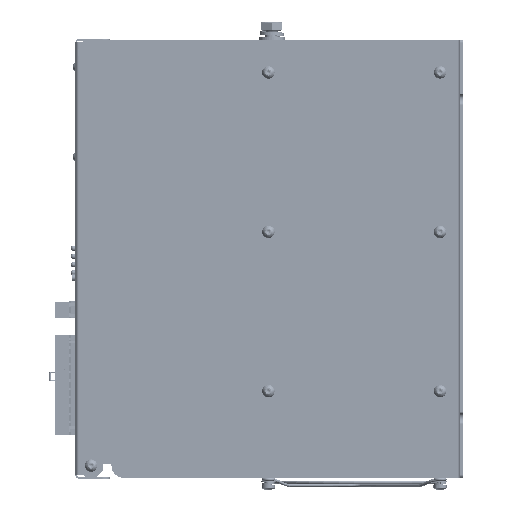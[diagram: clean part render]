
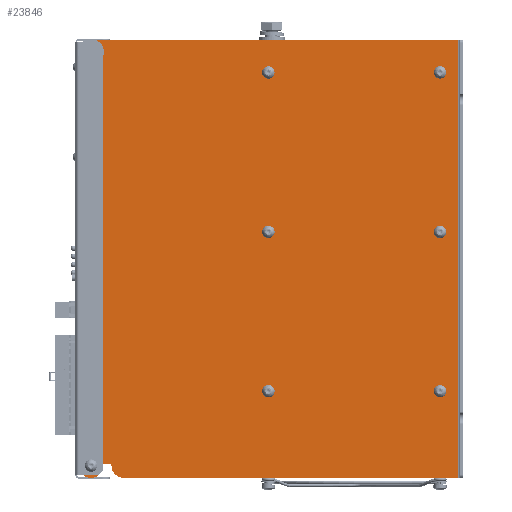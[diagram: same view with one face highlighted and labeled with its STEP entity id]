
A CAD part, left-side view. The second image highlights one B-rep face of the part: STEP entity #23846.
In plain terms, the highlighted planar face has unit normal (-1, 0, 0) as drawn and (0, -1, 0) by its records, which use the part's own axes.
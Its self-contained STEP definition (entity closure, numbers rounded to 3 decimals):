
#23846=ADVANCED_FACE('',(#189702,#189704,#189706,#189708,#189710,#189712,#189714,
#189716,#189718),#189720,.F.);
#189702=FACE_BOUND('',#189703,.T.);
#189703=EDGE_LOOP('',(#312044,#312045,#312046,#312047,#312048,#312049,#312050,#312051,
#312052,#312053));
#189704=FACE_BOUND('',#189705,.T.);
#189705=EDGE_LOOP('',(#312054));
#189706=FACE_BOUND('',#189707,.T.);
#189707=EDGE_LOOP('',(#312055));
#189708=FACE_BOUND('',#189709,.T.);
#189709=EDGE_LOOP('',(#312056));
#189710=FACE_BOUND('',#189711,.T.);
#189711=EDGE_LOOP('',(#312057));
#189712=FACE_BOUND('',#189713,.T.);
#189713=EDGE_LOOP('',(#312058));
#189714=FACE_BOUND('',#189715,.T.);
#189715=EDGE_LOOP('',(#312059));
#189716=FACE_BOUND('',#189717,.T.);
#189717=EDGE_LOOP('',(#312060));
#189718=FACE_BOUND('',#189719,.T.);
#189719=EDGE_LOOP('',(#312061));
#189720=PLANE('',#189721);
#189721=AXIS2_PLACEMENT_3D('',#189722,#189723,#189724);
#189722=CARTESIAN_POINT('',(0.,0.,0.));
#189723=DIRECTION('',(0.,1.,0.));
#189724=DIRECTION('',(-1.,0.,0.));
#312044=ORIENTED_EDGE('',*,*,#400041,.T.);
#312045=ORIENTED_EDGE('',*,*,#400048,.F.);
#312046=ORIENTED_EDGE('',*,*,#400049,.F.);
#312047=ORIENTED_EDGE('',*,*,#400050,.F.);
#312048=ORIENTED_EDGE('',*,*,#400051,.F.);
#312049=ORIENTED_EDGE('',*,*,#400052,.T.);
#312050=ORIENTED_EDGE('',*,*,#400053,.T.);
#312051=ORIENTED_EDGE('',*,*,#400054,.T.);
#312052=ORIENTED_EDGE('',*,*,#400055,.F.);
#312053=ORIENTED_EDGE('',*,*,#400056,.F.);
#312054=ORIENTED_EDGE('',*,*,#400057,.T.);
#312055=ORIENTED_EDGE('',*,*,#400058,.T.);
#312056=ORIENTED_EDGE('',*,*,#400059,.T.);
#312057=ORIENTED_EDGE('',*,*,#400060,.T.);
#312058=ORIENTED_EDGE('',*,*,#400061,.T.);
#312059=ORIENTED_EDGE('',*,*,#400062,.T.);
#312060=ORIENTED_EDGE('',*,*,#400063,.T.);
#312061=ORIENTED_EDGE('',*,*,#400064,.T.);
#400041=EDGE_CURVE('',#453682,#453680,#453683,.T.);
#400048=EDGE_CURVE('',#453692,#453680,#453693,.T.);
#400049=EDGE_CURVE('',#453694,#453692,#453695,.F.);
#400050=EDGE_CURVE('',#453696,#453694,#453697,.T.);
#400051=EDGE_CURVE('',#453698,#453696,#453699,.F.);
#400052=EDGE_CURVE('',#453698,#453700,#453701,.T.);
#400053=EDGE_CURVE('',#453700,#453702,#453703,.T.);
#400054=EDGE_CURVE('',#453702,#453704,#453705,.T.);
#400055=EDGE_CURVE('',#453706,#453704,#453707,.F.);
#400056=EDGE_CURVE('',#453682,#453706,#453708,.T.);
#400057=EDGE_CURVE('',#453709,#453709,#453710,.T.);
#400058=EDGE_CURVE('',#453711,#453711,#453712,.T.);
#400059=EDGE_CURVE('',#453713,#453713,#453714,.T.);
#400060=EDGE_CURVE('',#453715,#453715,#453716,.T.);
#400061=EDGE_CURVE('',#453717,#453717,#453718,.T.);
#400062=EDGE_CURVE('',#453719,#453719,#453720,.T.);
#400063=EDGE_CURVE('',#453721,#453721,#453722,.T.);
#400064=EDGE_CURVE('',#453723,#453723,#453724,.T.);
#453680=VERTEX_POINT('',#565097);
#453682=VERTEX_POINT('',#565102);
#453683=LINE('',#565103,#565104);
#453692=VERTEX_POINT('',#565129);
#453693=LINE('',#565130,#565131);
#453694=VERTEX_POINT('',#565133);
#453695=CIRCLE('',#565134,7.5);
#453696=VERTEX_POINT('',#565138);
#453697=LINE('',#565139,#565140);
#453698=VERTEX_POINT('',#565142);
#453699=CIRCLE('',#565143,7.5);
#453700=VERTEX_POINT('',#565147);
#453701=LINE('',#565148,#565149);
#453702=VERTEX_POINT('',#565151);
#453703=LINE('',#565152,#565153);
#453704=VERTEX_POINT('',#565155);
#453705=LINE('',#565156,#565157);
#453706=VERTEX_POINT('',#565159);
#453707=CIRCLE('',#565160,7.5);
#453708=LINE('',#565164,#565165);
#453709=VERTEX_POINT('',#565167);
#453710=CIRCLE('',#565168,2.65);
#453711=VERTEX_POINT('',#565172);
#453712=CIRCLE('',#565173,2.1);
#453713=VERTEX_POINT('',#565177);
#453714=CIRCLE('',#565178,2.1);
#453715=VERTEX_POINT('',#565182);
#453716=CIRCLE('',#565183,2.1);
#453717=VERTEX_POINT('',#565187);
#453718=CIRCLE('',#565188,2.1);
#453719=VERTEX_POINT('',#565192);
#453720=CIRCLE('',#565193,2.1);
#453721=VERTEX_POINT('',#565197);
#453722=CIRCLE('',#565198,2.1);
#453723=VERTEX_POINT('',#565202);
#453724=CIRCLE('',#565203,2.65);
#565097=CARTESIAN_POINT('',(134.,0.,-114.5));
#565102=CARTESIAN_POINT('',(-134.,0.,-114.5));
#565103=CARTESIAN_POINT('',(-134.,0.,-114.5));
#565104=VECTOR('',#565105,1.);
#565105=DIRECTION('',(1.,0.,0.));
#565129=CARTESIAN_POINT('',(134.,0.,110.));
#565130=CARTESIAN_POINT('',(134.,0.,110.));
#565131=VECTOR('',#565132,1.);
#565132=DIRECTION('',(0.,0.,-1.));
#565133=CARTESIAN_POINT('',(126.5,0.,117.5));
#565134=AXIS2_PLACEMENT_3D('',#565135,#565136,#565137);
#565135=CARTESIAN_POINT('',(126.5,0.,110.));
#565136=DIRECTION('',(0.,-1.,0.));
#565137=DIRECTION('',(1.,0.,0.));
#565138=CARTESIAN_POINT('',(-126.5,0.,117.5));
#565139=CARTESIAN_POINT('',(-126.5,0.,117.5));
#565140=VECTOR('',#565141,1.);
#565141=DIRECTION('',(1.,0.,0.));
#565142=CARTESIAN_POINT('',(-126.5,0.,102.5));
#565143=AXIS2_PLACEMENT_3D('',#565144,#565145,#565146);
#565144=CARTESIAN_POINT('',(-126.5,0.,110.));
#565145=DIRECTION('',(0.,-1.,0.));
#565146=DIRECTION('',(0.,0.,1.));
#565147=CARTESIAN_POINT('',(-125.5,0.,102.5));
#565148=CARTESIAN_POINT('',(-126.5,0.,102.5));
#565149=VECTOR('',#565150,1.);
#565150=DIRECTION('',(1.,0.,0.));
#565151=CARTESIAN_POINT('',(-125.5,0.,97.5));
#565152=CARTESIAN_POINT('',(-125.5,0.,102.5));
#565153=VECTOR('',#565154,1.);
#565154=DIRECTION('',(0.,0.,-1.));
#565155=CARTESIAN_POINT('',(-126.5,0.,97.5));
#565156=CARTESIAN_POINT('',(-125.5,0.,97.5));
#565157=VECTOR('',#565158,1.);
#565158=DIRECTION('',(-1.,0.,0.));
#565159=CARTESIAN_POINT('',(-134.,0.,90.));
#565160=AXIS2_PLACEMENT_3D('',#565161,#565162,#565163);
#565161=CARTESIAN_POINT('',(-126.5,0.,90.));
#565162=DIRECTION('',(0.,-1.,0.));
#565163=DIRECTION('',(0.,0.,1.));
#565164=CARTESIAN_POINT('',(-134.,0.,-114.5));
#565165=VECTOR('',#565166,1.);
#565166=DIRECTION('',(0.,0.,1.));
#565167=CARTESIAN_POINT('',(-129.15,0.,110.));
#565168=AXIS2_PLACEMENT_3D('',#565169,#565170,#565171);
#565169=CARTESIAN_POINT('',(-126.5,0.,110.));
#565170=DIRECTION('',(0.,1.,0.));
#565171=DIRECTION('',(-1.,0.,0.));
#565172=CARTESIAN_POINT('',(111.9,0.,-103.5));
#565173=AXIS2_PLACEMENT_3D('',#565174,#565175,#565176);
#565174=CARTESIAN_POINT('',(114.,0.,-103.5));
#565175=DIRECTION('',(0.,1.,0.));
#565176=DIRECTION('',(-1.,0.,0.));
#565177=CARTESIAN_POINT('',(-83.1,0.,-103.5));
#565178=AXIS2_PLACEMENT_3D('',#565179,#565180,#565181);
#565179=CARTESIAN_POINT('',(-81.,0.,-103.5));
#565180=DIRECTION('',(0.,1.,0.));
#565181=DIRECTION('',(-1.,0.,0.));
#565182=CARTESIAN_POINT('',(-83.1,0.,1.5));
#565183=AXIS2_PLACEMENT_3D('',#565184,#565185,#565186);
#565184=CARTESIAN_POINT('',(-81.,0.,1.5));
#565185=DIRECTION('',(0.,1.,0.));
#565186=DIRECTION('',(-1.,0.,0.));
#565187=CARTESIAN_POINT('',(111.9,0.,1.5));
#565188=AXIS2_PLACEMENT_3D('',#565189,#565190,#565191);
#565189=CARTESIAN_POINT('',(114.,0.,1.5));
#565190=DIRECTION('',(0.,1.,0.));
#565191=DIRECTION('',(-1.,0.,0.));
#565192=CARTESIAN_POINT('',(14.4,0.,1.5));
#565193=AXIS2_PLACEMENT_3D('',#565194,#565195,#565196);
#565194=CARTESIAN_POINT('',(16.5,0.,1.5));
#565195=DIRECTION('',(0.,1.,0.));
#565196=DIRECTION('',(-1.,0.,0.));
#565197=CARTESIAN_POINT('',(14.4,0.,-103.5));
#565198=AXIS2_PLACEMENT_3D('',#565199,#565200,#565201);
#565199=CARTESIAN_POINT('',(16.5,0.,-103.5));
#565200=DIRECTION('',(0.,1.,0.));
#565201=DIRECTION('',(-1.,0.,0.));
#565202=CARTESIAN_POINT('',(123.85,0.,110.));
#565203=AXIS2_PLACEMENT_3D('',#565204,#565205,#565206);
#565204=CARTESIAN_POINT('',(126.5,0.,110.));
#565205=DIRECTION('',(0.,1.,0.));
#565206=DIRECTION('',(-1.,0.,0.));
